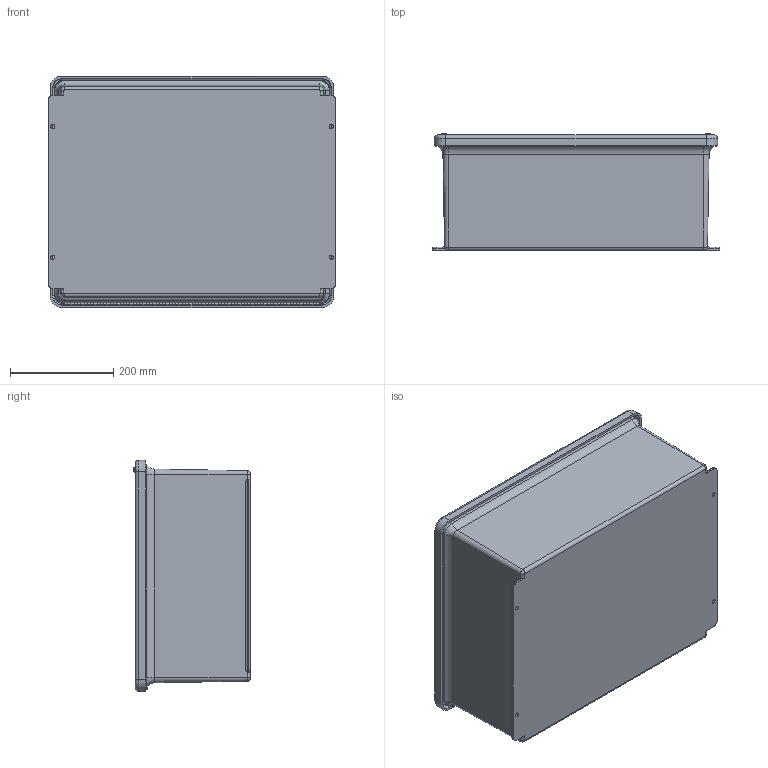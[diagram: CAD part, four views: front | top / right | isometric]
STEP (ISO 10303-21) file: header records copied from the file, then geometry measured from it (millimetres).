
FILE_DESCRIPTION((''),'2;1');
FILE_NAME('SCE-2016FG_ASM','2017-01-18T',('dougp'),('SAGINAW CONTROL & ENGINEERING'),'PRO/ENGINEER BY PARAMETRIC TECHNOLOGY CORPORATION, 2012070','PRO/ENGINEER BY PARAMETRIC TECHNOLOGY CORPORATION, 2012070','');
FILE_SCHEMA(('AUTOMOTIVE_DESIGN { 1 0 10303 214 1 1 1 1 }'));
Length unit declared in the file: inch
Products named in the file (17): J2016HW_1; RMINS45821P_9; RMINS45821P_10; RMINS45821P_11; RMINS45821P_12; RMINS45821P_13; RMINS45821P_14; J2016BHW_ASM; J2016HWCVR; GASKET_2016; RMSC10X063PHCPH; RMHINGCOV19; RMHINGBOX19; RMHINGPIN19; RMHING19_ASM; RMRIV43; SCE-2016FG_ASM
Assembly tree (28 placements, depth 3):
  SCE-2016FG_ASM
    J2016BHW_ASM
      J2016HW_1
      RMINS45821P_9
      RMINS45821P_10
      RMINS45821P_11
      RMINS45821P_12
      RMINS45821P_13
      RMINS45821P_14
    J2016HWCVR
    GASKET_2016
    RMSC10X063PHCPH  x2
    RMHING19_ASM
      RMHINGCOV19
      RMHINGBOX19
      RMHINGPIN19
    RMRIV43  x12
Bounding box: 558.8 x 227.2 x 449.85 mm (x, y, z)
Volume: 4636371 mm3; surface area: 1896197.3 mm2
Topology: 26 solids, 26 shells, 1313 faces, 3690 edges, 2457 vertices
Faces by surface type: cylinder 569, plane 393, cone 238, extrusion 45, torus 44, bspline 20, sphere 4
Entity records: 45571 total; most frequent: CARTESIAN_POINT 9199, DIRECTION 6091, ORIENTED_EDGE 6064, EDGE_CURVE 3032, AXIS2_PLACEMENT_3D 2285, PRESENTATION_STYLE_ASSIGNMENT 2207, STYLED_ITEM 2207, CURVE_STYLE 2197
